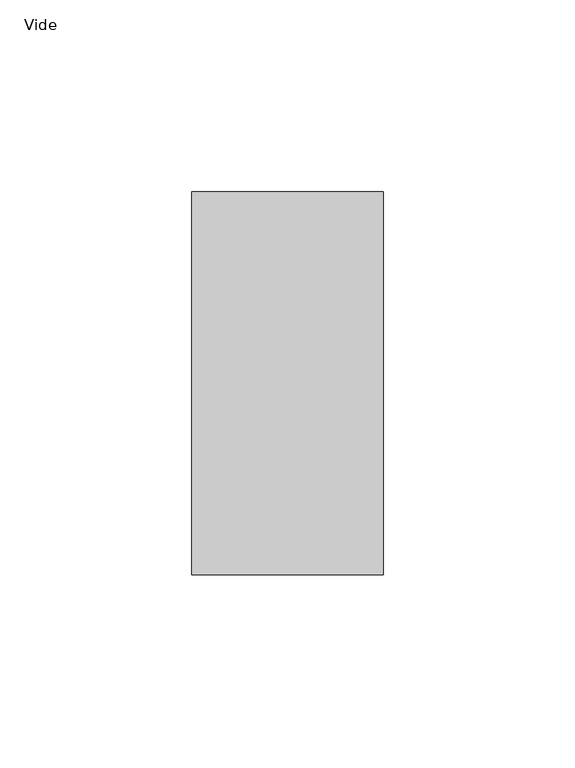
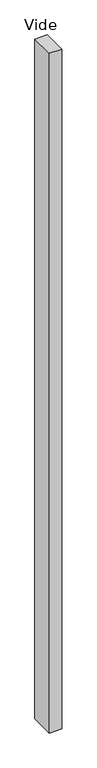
"""IFC4 building model written with IfcOpenShell, lengths in millimetres: plate geometry, Panneau système vide : Vide."""

from ifc_helpers import new_model, si_unit, origin, origin_with_axes, place, context, project, spatial, polyline, outline, extrude, source, transform, mapped, element, save


def vide_b6a19ed5(model_context):
    return source(origin(), model_context, "Body", "SweptSolid", [
        extrude(outline(polyline([(25.0, -150.0), (-25.0, -150.0), (-25.0, -50.0), (25.0, -50.0), (25.0, -150.0)])), origin_with_axes(), (0.0, 0.0, 1.0), 2900.0),
    ])


if __name__ == "__main__":
    model = new_model("IFC4")
    model_context = context("Model", 3, world=origin())
    ifc_project = project(units=[si_unit("LENGTHUNIT", "METRE", prefix="MILLI")], contexts=[model_context])
    site = spatial("IfcSite", under=ifc_project)
    building = spatial("IfcBuilding", under=site)
    placement = place(None, origin())
    vide_shape = vide_b6a19ed5(model_context)
    element("IfcPlate", 1, ObjectType="Panneau système vide : Vide", at=placement, inside=building, context=model_context, shape_type="MappedRepresentation", body=[
        mapped(vide_shape, transform((0.0, 0.0, 0.0), x_axis=(1.0, 0.0, 0.0), y_axis=(0.0, 1.0, 0.0), z_axis=(0.0, 0.0, 1.0))),
    ])
    save(model, "model.ifc")
